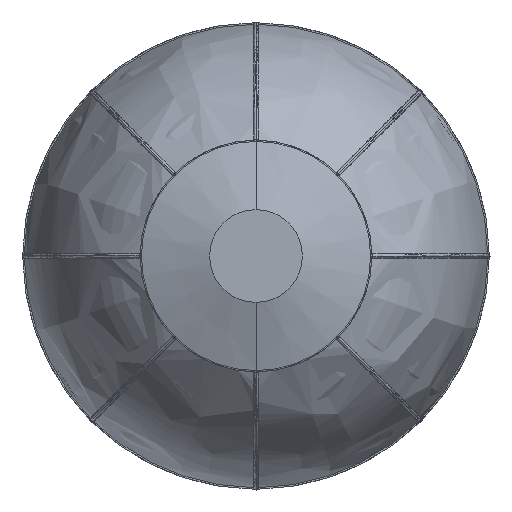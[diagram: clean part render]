
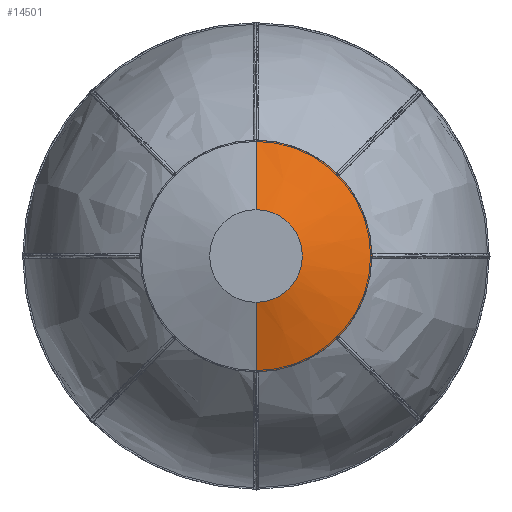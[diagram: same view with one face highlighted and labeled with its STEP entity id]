
A CAD part, front view. The second image highlights one B-rep face of the part: STEP entity #14501.
In plain terms, the highlighted conical face has half-angle 71.565 degrees and reference radius 30 mm.
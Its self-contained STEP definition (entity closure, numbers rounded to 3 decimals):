
#1259 = VERTEX_POINT ( 'NONE', #14295 ) ;
#1838 = ORIENTED_EDGE ( 'NONE', *, *, #14517, .F. ) ;
#2125 = EDGE_CURVE ( 'NONE', #5574, #9510, #7277, .T. ) ;
#2238 = EDGE_LOOP ( 'NONE', ( #13431, #15679, #1838, #14778 ) ) ;
#2281 = AXIS2_PLACEMENT_3D ( 'NONE', #12536, #6238, #15206 ) ;
#3581 = VECTOR ( 'NONE', #14475, 1000. ) ;
#3668 = CARTESIAN_POINT ( 'NONE',  ( 0., 0., 30. ) ) ;
#3697 = CIRCLE ( 'NONE', #11700, 75. ) ;
#3988 = DIRECTION ( 'NONE',  ( 0., 1., 0. ) ) ;
#4484 = CONICAL_SURFACE ( 'NONE', #7400, 30., 1.249 ) ;
#5440 = LINE ( 'NONE', #3668, #13472 ) ;
#5539 = DIRECTION ( 'NONE',  ( 0., 1., 0. ) ) ;
#5574 = VERTEX_POINT ( 'NONE', #11776 ) ;
#5654 = EDGE_CURVE ( 'NONE', #1259, #5574, #12720, .T. ) ;
#6238 = DIRECTION ( 'NONE',  ( 0., 1., 0. ) ) ;
#6391 = VERTEX_POINT ( 'NONE', #8045 ) ;
#6581 = CARTESIAN_POINT ( 'NONE',  ( 0., 15., 0. ) ) ;
#7277 = LINE ( 'NONE', #15888, #3581 ) ;
#7400 = AXIS2_PLACEMENT_3D ( 'NONE', #13931, #3988, #12719 ) ;
#8045 = CARTESIAN_POINT ( 'NONE',  ( 0., 15., 75. ) ) ;
#9510 = VERTEX_POINT ( 'NONE', #12550 ) ;
#9925 = FACE_OUTER_BOUND ( 'NONE', #2238, .T. ) ;
#10455 = DIRECTION ( 'NONE',  ( 0., 0., 1. ) ) ;
#11462 = DIRECTION ( 'NONE',  ( 0., 0.316, 0.949 ) ) ;
#11700 = AXIS2_PLACEMENT_3D ( 'NONE', #6581, #5539, #10455 ) ;
#11776 = CARTESIAN_POINT ( 'NONE',  ( 0., 0., -30. ) ) ;
#11858 = EDGE_CURVE ( 'NONE', #1259, #6391, #5440, .T. ) ;
#12536 = CARTESIAN_POINT ( 'NONE',  ( 0., 0., 0. ) ) ;
#12550 = CARTESIAN_POINT ( 'NONE',  ( 0., 15., -75. ) ) ;
#12719 = DIRECTION ( 'NONE',  ( 0., 0., 1. ) ) ;
#12720 = CIRCLE ( 'NONE', #2281, 30. ) ;
#13431 = ORIENTED_EDGE ( 'NONE', *, *, #5654, .T. ) ;
#13472 = VECTOR ( 'NONE', #11462, 1000. ) ;
#13931 = CARTESIAN_POINT ( 'NONE',  ( 0., 0., 0. ) ) ;
#14295 = CARTESIAN_POINT ( 'NONE',  ( 0., 0., 30. ) ) ;
#14475 = DIRECTION ( 'NONE',  ( 0., 0.316, -0.949 ) ) ;
#14501 = ADVANCED_FACE ( 'NONE', ( #9925 ), #4484, .T. ) ;
#14517 = EDGE_CURVE ( 'NONE', #6391, #9510, #3697, .T. ) ;
#14778 = ORIENTED_EDGE ( 'NONE', *, *, #11858, .F. ) ;
#15206 = DIRECTION ( 'NONE',  ( 0., 0., 1. ) ) ;
#15679 = ORIENTED_EDGE ( 'NONE', *, *, #2125, .T. ) ;
#15888 = CARTESIAN_POINT ( 'NONE',  ( 0., 0., -30. ) ) ;
